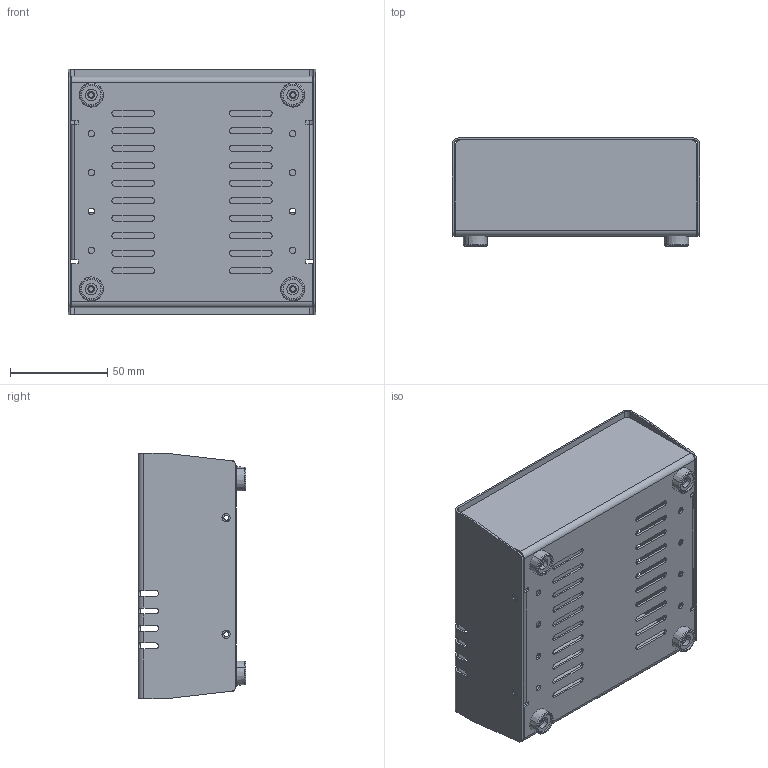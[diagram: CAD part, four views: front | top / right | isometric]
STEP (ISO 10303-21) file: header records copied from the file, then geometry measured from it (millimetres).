
FILE_DESCRIPTION (( 'STEP AP203' ), '1' );
FILE_NAME ('MP-080-0-0.STEP', '2025-04-24T06:12:56', ( '' ), ( '' ), 'SwSTEP 2.0', 'SolidWorks 2021', '' );
FILE_SCHEMA (( 'CONFIG_CONTROL_DESIGN' ));
Length unit declared in the file: millimetre
Products named in the file (4): MP-080-0-0; MP-080-P-1; MP-080-P-2; A-82-0-0-G-0
Assembly tree (6 placements, depth 2):
  MP-080-0-0
    MP-080-P-1
    MP-080-P-2
    A-82-0-0-G-0  x4
Bounding box: 127.3 x 55.5 x 126.4 mm (x, y, z)
Volume: 55355.1 mm3; surface area: 112203.4 mm2
Topology: 6 solids, 6 shells, 348 faces, 912 edges, 568 vertices
Faces by surface type: plane 172, cylinder 160, torus 8, cone 8
Entity records: 10258 total; most frequent: DIRECTION 1750, CARTESIAN_POINT 1657, ORIENTED_EDGE 1656, EDGE_CURVE 828, AXIS2_PLACEMENT_3D 607, LINE 536, VECTOR 536, VERTEX_POINT 514
